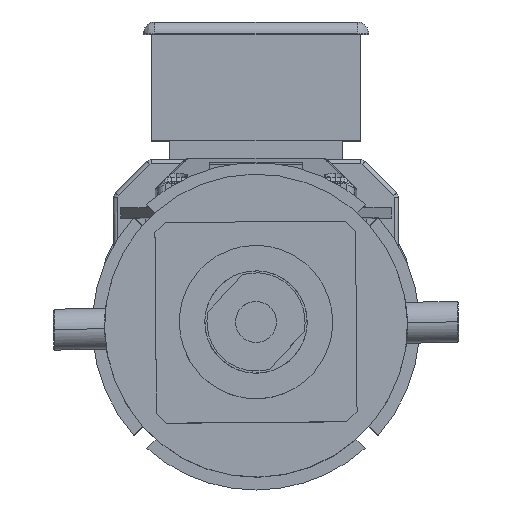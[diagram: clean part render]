
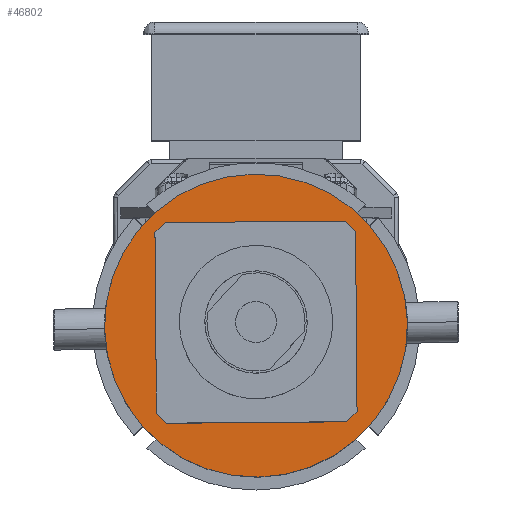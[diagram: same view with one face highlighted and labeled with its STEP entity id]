
A CAD part, top view. The second image highlights one B-rep face of the part: STEP entity #46802.
In plain terms, the highlighted planar face has unit normal (0, 0, 1) as drawn and (0, 0, -1) by its records, which use the part's own axes.
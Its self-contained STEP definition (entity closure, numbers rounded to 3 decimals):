
#1540 = DIRECTION ( 'NONE',  ( 1., 0., 0. ) ) ;
#5223 = EDGE_CURVE ( 'NONE', #76750, #29349, #47311, .T. ) ;
#6504 = EDGE_CURVE ( 'NONE', #8123, #24865, #52634, .T. ) ;
#8123 = VERTEX_POINT ( 'NONE', #25391 ) ;
#9902 = EDGE_LOOP ( 'NONE', ( #71147, #64017 ) ) ;
#13636 = CARTESIAN_POINT ( 'NONE',  ( 0., 0., 0. ) ) ;
#16896 = DIRECTION ( 'NONE',  ( 0., 0., 1. ) ) ;
#18837 = ORIENTED_EDGE ( 'NONE', *, *, #5223, .F. ) ;
#20185 = DIRECTION ( 'NONE',  ( 1., 0., 0. ) ) ;
#23673 = CARTESIAN_POINT ( 'NONE',  ( 0., 0., 0. ) ) ;
#24865 = VERTEX_POINT ( 'NONE', #27485 ) ;
#25391 = CARTESIAN_POINT ( 'NONE',  ( -40., 0., 0. ) ) ;
#26547 = DIRECTION ( 'NONE',  ( 0., 0., 1. ) ) ;
#26721 = FACE_OUTER_BOUND ( 'NONE', #54405, .T. ) ;
#27485 = CARTESIAN_POINT ( 'NONE',  ( 40., 0., 0. ) ) ;
#29349 = VERTEX_POINT ( 'NONE', #56089 ) ;
#29473 = EDGE_CURVE ( 'NONE', #29349, #76750, #44211, .T. ) ;
#30205 = DIRECTION ( 'NONE',  ( 1., 0., 0. ) ) ;
#39921 = FACE_BOUND ( 'NONE', #9902, .T. ) ;
#39925 = ORIENTED_EDGE ( 'NONE', *, *, #29473, .F. ) ;
#40397 = DIRECTION ( 'NONE',  ( 0., 0., 1. ) ) ;
#44211 = CIRCLE ( 'NONE', #47113, 74. ) ;
#46802 = ADVANCED_FACE ( 'NONE', ( #26721, #39921 ), #59376, .F. ) ;
#47113 = AXIS2_PLACEMENT_3D ( 'NONE', #55739, #16896, #62288 ) ;
#47311 = CIRCLE ( 'NONE', #62149, 74. ) ;
#49716 = CIRCLE ( 'NONE', #77885, 40. ) ;
#52634 = CIRCLE ( 'NONE', #55158, 40. ) ;
#54313 = EDGE_CURVE ( 'NONE', #24865, #8123, #49716, .T. ) ;
#54405 = EDGE_LOOP ( 'NONE', ( #39925, #18837 ) ) ;
#55158 = AXIS2_PLACEMENT_3D ( 'NONE', #23673, #69098, #30205 ) ;
#55739 = CARTESIAN_POINT ( 'NONE',  ( 0., 0., 0. ) ) ;
#56089 = CARTESIAN_POINT ( 'NONE',  ( -74., 0., 0. ) ) ;
#59007 = DIRECTION ( 'NONE',  ( 0., 0., -1. ) ) ;
#59376 = PLANE ( 'NONE',  #81638 ) ;
#62149 = AXIS2_PLACEMENT_3D ( 'NONE', #65399, #26547, #71986 ) ;
#62288 = DIRECTION ( 'NONE',  ( 1., 0., 0. ) ) ;
#62745 = CARTESIAN_POINT ( 'NONE',  ( 74., 0., 0. ) ) ;
#64017 = ORIENTED_EDGE ( 'NONE', *, *, #6504, .F. ) ;
#65399 = CARTESIAN_POINT ( 'NONE',  ( 0., 0., 0. ) ) ;
#69098 = DIRECTION ( 'NONE',  ( 0., 0., -1. ) ) ;
#71147 = ORIENTED_EDGE ( 'NONE', *, *, #54313, .F. ) ;
#71986 = DIRECTION ( 'NONE',  ( 1., 0., 0. ) ) ;
#76750 = VERTEX_POINT ( 'NONE', #62745 ) ;
#77885 = AXIS2_PLACEMENT_3D ( 'NONE', #13636, #59007, #20185 ) ;
#79246 = CARTESIAN_POINT ( 'NONE',  ( 0., 0., 0. ) ) ;
#81638 = AXIS2_PLACEMENT_3D ( 'NONE', #79246, #40397, #1540 ) ;
